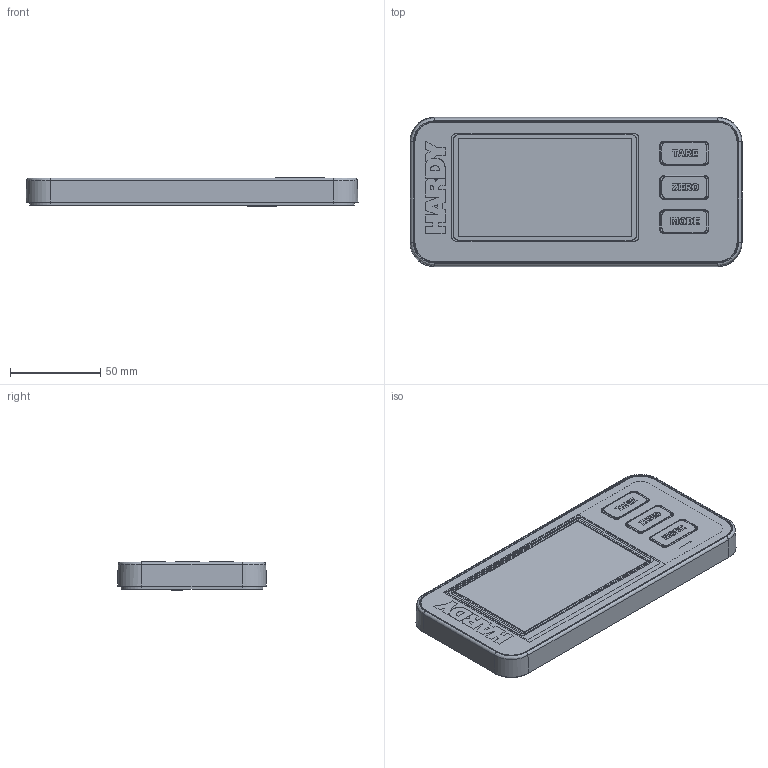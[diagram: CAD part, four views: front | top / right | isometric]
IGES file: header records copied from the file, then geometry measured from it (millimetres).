
Start section: SolidWorks IGES file using analytic representation for surfaces
Global section: file name: C:\0_Work\SolidWorks\~HI 6100 Display\Redesign Version Generated In 2020\HI6130.IGS; native system: SolidWorks 2020; preprocessor: SolidWorks 2020; author: vach01; date: 231018.082529; units: millimetre
Bounding box: 184.4 x 82.8 x 16.04 mm (x, y, z)
Surface area: 178535.9 mm2 (no closed solid volume)
Topology: 0 solids, 0 shells, 7016 faces, 47630 edges, 47594 vertices
Faces by surface type: bspline 6170, revolution 846
